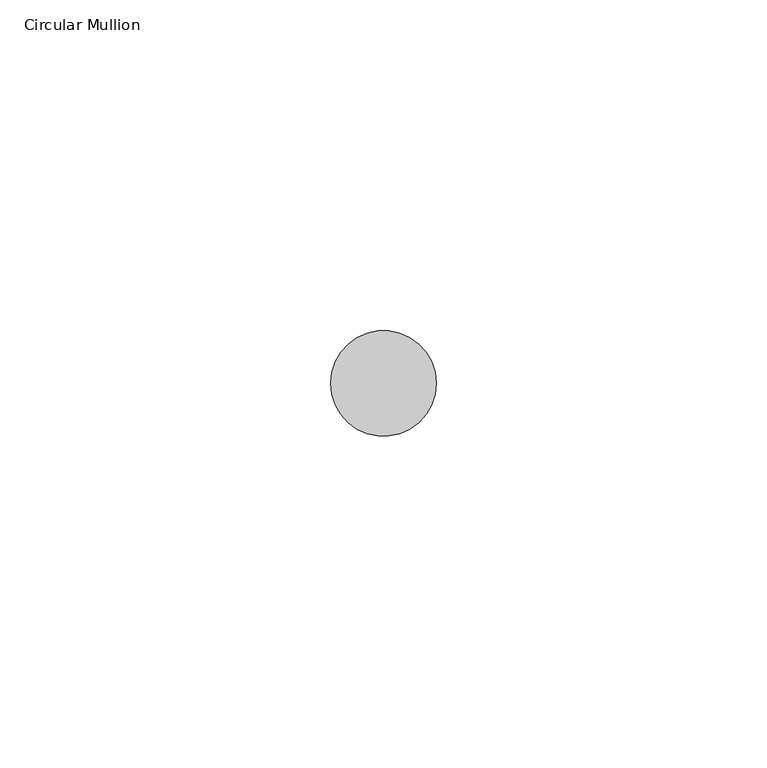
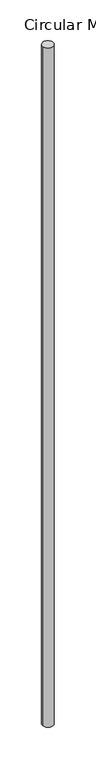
"""IFC4 building model written with IfcOpenShell, lengths in millimetres: member geometry, Circular Mullion : ARQ_HERR_16mm."""

from ifc_helpers import new_model, si_unit, point, frame, origin, origin_2d, place, context, project, spatial, circle_curve, trimmed, segment, composite_curve, outline, extrude, source, transform, mapped, element, save


def circular_mullion_1ffed5d8(model_context):
    return source(origin(), model_context, "Body", "SweptSolid", [
        extrude(outline(composite_curve([segment(trimmed(circle_curve(origin_2d(), 8.0), [point((8.0, 0.0))], [point((-8.0, 0.0))], False, "CARTESIAN"), True, "CONTINUOUS"), segment(trimmed(circle_curve(origin_2d(), 8.0), [point((-8.0, 0.0))], [point((8.0, 0.0))], False, "CARTESIAN"), True, "CONTINUOUS")], self_intersect=False)), frame((0.0, 0.0, -1050.2499815), z_axis=(0.0, 0.0, 1.0), x_axis=(1.0, 0.0, 0.0)), (0.0, 0.0, 1.0), 1050.2499815),
    ])


if __name__ == "__main__":
    model = new_model("IFC4")
    model_context = context("Model", 3, world=origin())
    ifc_project = project(units=[si_unit("LENGTHUNIT", "METRE", prefix="MILLI")], contexts=[model_context])
    site = spatial("IfcSite", under=ifc_project)
    building = spatial("IfcBuilding", under=site)
    placement = place(None, origin())
    circular_mullion_shape = circular_mullion_1ffed5d8(model_context)
    element("IfcMember", 1, ObjectType="Circular Mullion : ARQ_HERR_16mm", at=placement, inside=building, context=model_context, shape_type="MappedRepresentation", body=[
        mapped(circular_mullion_shape, transform((0.0, 0.0, 0.0), x_axis=(1.0, 0.0, 0.0), y_axis=(0.0, 1.0, 0.0), z_axis=(0.0, 0.0, 1.0))),
    ])
    save(model, "model.ifc")
